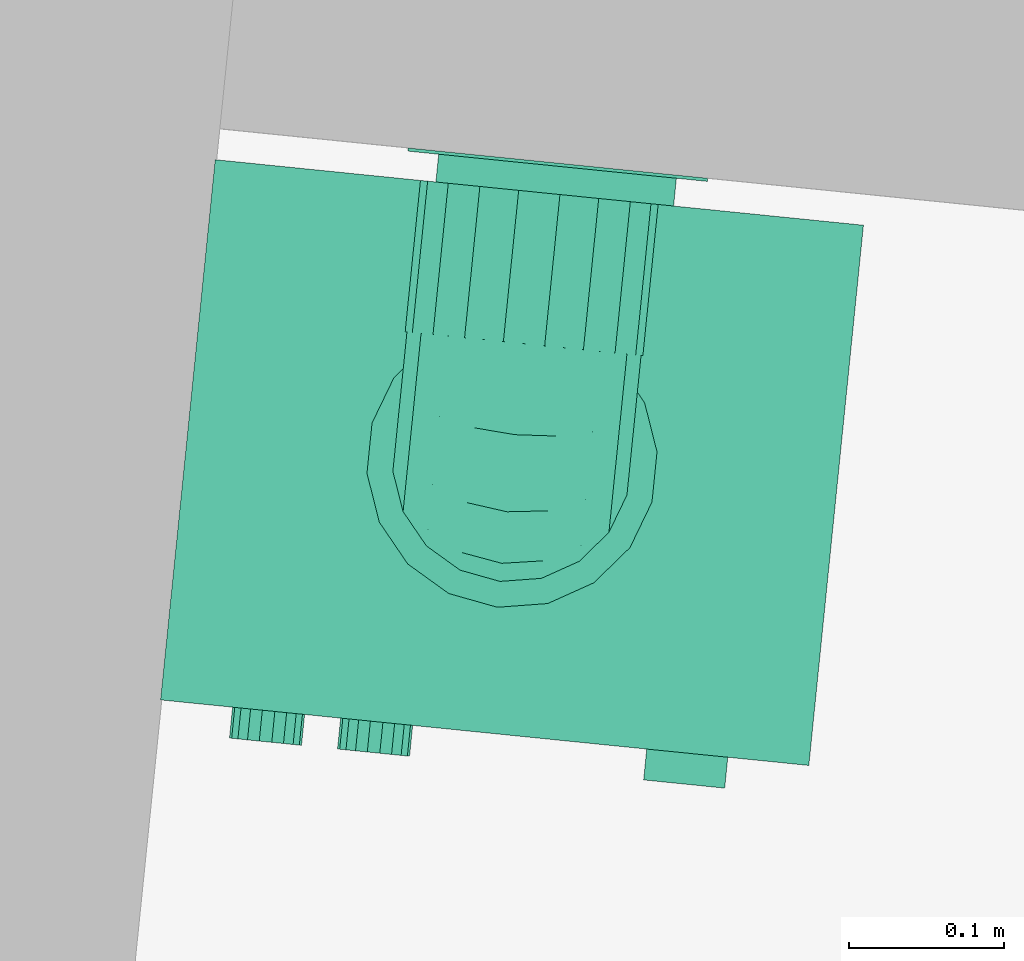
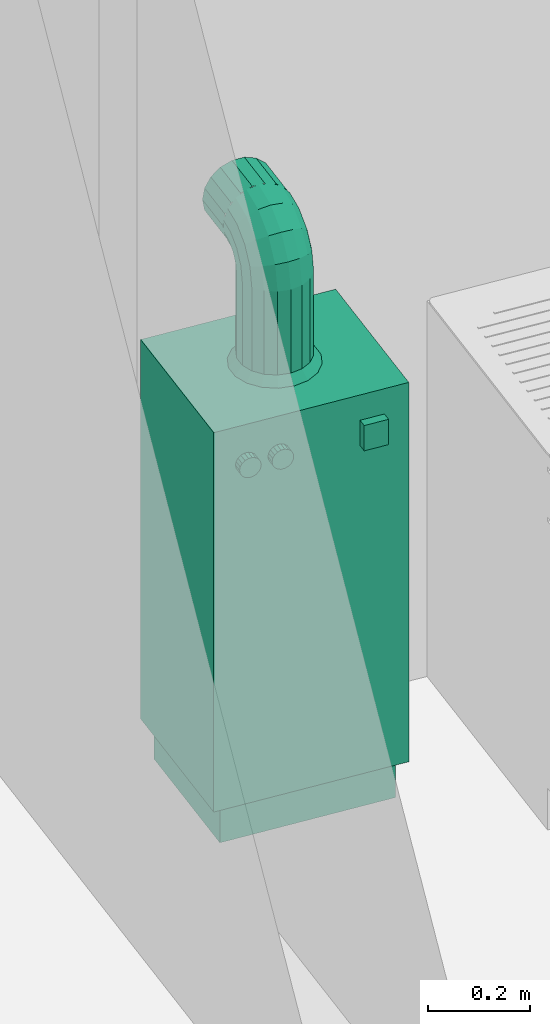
# One storey, part 112 of 164: 1 distribution element.
"""IFC2X3 building model written with IfcOpenShell, lengths in millimetres."""

from ifc_helpers import new_model, entity, si_unit, converted_unit, derived_unit, money_unit, direction, frame, origin_with_axes, place, context, subcontext, project, spatial, open_shell, faceted_brep, surface_model, source, transform, mapped, type_object, element, save


model = new_model("IFC2X3")

# Units and contexts
model_context = context("Model", 3, precision=0.01, world=origin_with_axes(), true_north=direction((0.0, 1.0)))
body_context = subcontext(model_context, "Body", "Model", "MODEL_VIEW")
ifc_project = project(units=[si_unit("LENGTHUNIT", "METRE", prefix="MILLI"), si_unit("AREAUNIT", "SQUARE_METRE"), si_unit("VOLUMEUNIT", "CUBIC_METRE"), converted_unit("PLANEANGLEUNIT", "DEGREE", entity("IfcPlaneAngleMeasure", 0.0174532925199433), si_unit("PLANEANGLEUNIT", "RADIAN"), dimensions=[0, 0, 0, 0, 0, 0, 0]), money_unit("USD"), converted_unit("TIMEUNIT", "Year", entity("IfcTimeMeasure", 31557600.0), si_unit("TIMEUNIT", "SECOND"), dimensions=[0, 0, 1, 0, 0, 0, 0]), si_unit("MASSUNIT", "GRAM", prefix="KILO"), si_unit("THERMODYNAMICTEMPERATUREUNIT", "DEGREE_CELSIUS"), si_unit("LUMINOUSINTENSITYUNIT", "LUMEN"), si_unit("ENERGYUNIT", "JOULE", prefix="MEGA"), derived_unit("THERMALCONDUCTANCEUNIT", [(si_unit("POWERUNIT", "WATT"), 1), (si_unit("LENGTHUNIT", "METRE"), -1), (si_unit("THERMODYNAMICTEMPERATUREUNIT", "KELVIN"), -1)]), derived_unit("SPECIFICHEATCAPACITYUNIT", [(si_unit("ENERGYUNIT", "JOULE"), 1), (si_unit("MASSUNIT", "GRAM", prefix="KILO"), -1), (si_unit("THERMODYNAMICTEMPERATUREUNIT", "KELVIN"), -1)]), derived_unit("MASSDENSITYUNIT", [(si_unit("MASSUNIT", "GRAM", prefix="KILO"), 1), (si_unit("VOLUMEUNIT", "CUBIC_METRE"), -1)])], contexts=[model_context])

# Site, building, storey
site_placement = place(None, origin_with_axes())
site = spatial("IfcSite", under=ifc_project, at=site_placement, Name="Site", CompositionType="ELEMENT")
building_placement = place(site_placement, origin_with_axes())
building = spatial("IfcBuilding", under=site, at=building_placement, Name="Bâtiment", CompositionType="ELEMENT")
storey_placement = place(building_placement, frame((0.0, 0.0, 5750.0), z_axis=(0.0, 0.0, 1.0), x_axis=(1.0, 0.0, 0.0)))
storey = spatial("IfcBuildingStorey", under=building, at=storey_placement, Name="Etage1", CompositionType="ELEMENT", Elevation=5750.0)

# Distribution element
distribution_element_type = type_object("IfcDistributionElementType", Name="Chaudière à gaz 27")
shared_shape = source(origin_with_axes(), body_context, "Body", "SurfaceModel", [
    surface_model("IfcShellBasedSurfaceModel", [(-200.0, 350.0, 34.90909090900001), (-200.0, 368.0, 34.90909090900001), (-180.0709335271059, 368.0, 37.53280228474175), (-180.0709335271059, 350.0, 37.53280228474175), (-219.9290664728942, 350.0, 37.53280228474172), (-219.9290664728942, 368.0, 37.53280228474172), (-161.5, 368.0, 45.22513481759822), (-161.5, 350.0, 45.22513481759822), (-238.5000000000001, 350.0, 45.22513481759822), (-238.5000000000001, 368.0, 45.22513481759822), (-145.5527778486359, 368.0, 57.46186875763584), (-145.5527778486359, 350.0, 57.46186875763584), (-254.4472221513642, 350.0, 57.46186875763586), (-254.4472221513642, 368.0, 57.46186875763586), (-133.3160439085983, 368.0, 73.409090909), (-133.3160439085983, 350.0, 73.409090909), (-266.6839560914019, 350.0, 73.40909090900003), (-266.6839560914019, 368.0, 73.40909090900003), (-125.6237113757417, 368.0, 91.9800244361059), (-125.6237113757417, 350.0, 91.9800244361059), (-274.3762886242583, 350.0, 91.98002443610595), (-274.3762886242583, 368.0, 91.98002443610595), (-123.0, 368.0, 111.909090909), (-123.0, 350.0, 111.909090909), (-277.0, 350.0, 111.909090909), (-277.0, 368.0, 111.909090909), (-125.6237113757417, 368.0, 131.8381573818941), (-125.6237113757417, 350.0, 131.8381573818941), (-274.3762886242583, 350.0, 131.8381573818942), (-274.3762886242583, 368.0, 131.8381573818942), (-133.3160439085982, 368.0, 150.409090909), (-133.3160439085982, 350.0, 150.409090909), (-266.6839560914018, 350.0, 150.4090909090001), (-266.6839560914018, 368.0, 150.4090909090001), (-145.5527778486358, 368.0, 166.3563130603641), (-145.5527778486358, 350.0, 166.3563130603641), (-254.4472221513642, 350.0, 166.3563130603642), (-254.4472221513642, 368.0, 166.3563130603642), (-161.5, 368.0, 178.5930470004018), (-161.5, 350.0, 178.5930470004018), (-238.5, 350.0, 178.5930470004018), (-238.5, 368.0, 178.5930470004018), (-180.0709335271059, 368.0, 186.2853795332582), (-180.0709335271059, 350.0, 186.2853795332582), (-219.929066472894, 350.0, 186.2853795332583), (-219.929066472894, 368.0, 186.2853795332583), (-200.0, 368.0, 188.909090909), (-200.0, 350.0, 188.909090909)], [open_shell([[[0, 1, 2, 3]], [[4, 5, 1, 0]], [[3, 2, 6, 7]], [[8, 9, 5, 4]], [[7, 6, 10, 11]], [[12, 13, 9, 8]], [[11, 10, 14, 15]], [[16, 17, 13, 12]], [[15, 14, 18, 19]], [[20, 21, 17, 16]], [[19, 18, 22, 23]], [[24, 25, 21, 20]], [[23, 22, 26, 27]], [[28, 29, 25, 24]], [[27, 26, 30, 31]], [[32, 33, 29, 28]], [[31, 30, 34, 35]], [[36, 37, 33, 32]], [[35, 34, 38, 39]], [[40, 41, 37, 36]], [[39, 38, 42, 43]], [[44, 45, 41, 40]], [[43, 42, 46, 47]], [[47, 46, 45, 44]]])]),
    faceted_brep([(-200.0, 368.0, 14.909090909), (-200.0, 370.0, 14.909090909), (-174.8945526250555, 370.0, 18.21428575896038), (-174.8945526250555, 368.0, 18.21428575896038), (-225.1054473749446, 368.0, 18.21428575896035), (-225.1054473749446, 370.0, 18.21428575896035), (-248.5000000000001, 370.0, 27.90462674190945), (-268.5893577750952, 370.0, 43.31973313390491), (-284.0044641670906, 370.0, 63.40909090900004), (-293.6948051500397, 370.0, 86.80364353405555), (-297.0000000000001, 370.0, 111.909090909), (-293.6948051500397, 370.0, 137.0145382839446), (-284.0044641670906, 370.0, 160.4090909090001), (-268.5893577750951, 370.0, 180.4984486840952), (-248.5, 370.0, 195.9135550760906), (-225.1054473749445, 370.0, 205.6038960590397), (-199.9999999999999, 370.0, 208.909090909), (-174.8945526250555, 370.0, 205.6038960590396), (-151.5, 370.0, 195.9135550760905), (-131.4106422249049, 370.0, 180.4984486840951), (-115.9955358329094, 370.0, 160.409090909), (-106.3051948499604, 370.0, 137.0145382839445), (-103.0, 370.0, 111.909090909), (-106.3051948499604, 370.0, 86.80364353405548), (-115.9955358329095, 370.0, 63.40909090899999), (-131.4106422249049, 370.0, 43.31973313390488), (-151.5, 370.0, 27.90462674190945), (-200.0, 370.0, 34.90909090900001), (-180.0709335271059, 370.0, 37.53280228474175), (-161.5, 370.0, 45.22513481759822), (-145.5527778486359, 370.0, 57.46186875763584), (-133.3160439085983, 370.0, 73.409090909), (-125.6237113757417, 370.0, 91.9800244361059), (-123.0, 370.0, 111.909090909), (-125.6237113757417, 370.0, 131.8381573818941), (-133.3160439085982, 370.0, 150.409090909), (-145.5527778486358, 370.0, 166.3563130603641), (-161.5, 370.0, 178.5930470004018), (-180.0709335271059, 370.0, 186.2853795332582), (-200.0, 370.0, 188.909090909), (-219.929066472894, 370.0, 186.2853795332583), (-238.5, 370.0, 178.5930470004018), (-254.4472221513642, 370.0, 166.3563130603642), (-266.6839560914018, 370.0, 150.4090909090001), (-274.3762886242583, 370.0, 131.8381573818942), (-277.0, 370.0, 111.909090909), (-274.3762886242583, 370.0, 91.98002443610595), (-266.6839560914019, 370.0, 73.40909090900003), (-254.4472221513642, 370.0, 57.46186875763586), (-238.5000000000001, 370.0, 45.22513481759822), (-219.9290664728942, 370.0, 37.53280228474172), (-151.5, 368.0, 27.90462674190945), (-131.4106422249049, 368.0, 43.31973313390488), (-115.9955358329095, 368.0, 63.40909090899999), (-106.3051948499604, 368.0, 86.80364353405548), (-103.0, 368.0, 111.909090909), (-106.3051948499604, 368.0, 137.0145382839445), (-115.9955358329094, 368.0, 160.409090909), (-131.4106422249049, 368.0, 180.4984486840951), (-151.5, 368.0, 195.9135550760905), (-174.8945526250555, 368.0, 205.6038960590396), (-199.9999999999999, 368.0, 208.909090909), (-225.1054473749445, 368.0, 205.6038960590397), (-248.5, 368.0, 195.9135550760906), (-268.5893577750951, 368.0, 180.4984486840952), (-284.0044641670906, 368.0, 160.4090909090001), (-293.6948051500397, 368.0, 137.0145382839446), (-297.0000000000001, 368.0, 111.909090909), (-293.6948051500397, 368.0, 86.80364353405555), (-284.0044641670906, 368.0, 63.40909090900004), (-268.5893577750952, 368.0, 43.31973313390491), (-248.5000000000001, 368.0, 27.90462674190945), (-200.0, 368.0, 34.90909090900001), (-219.9290664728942, 368.0, 37.53280228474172), (-238.5000000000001, 368.0, 45.22513481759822), (-254.4472221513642, 368.0, 57.46186875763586), (-266.6839560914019, 368.0, 73.40909090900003), (-274.3762886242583, 368.0, 91.98002443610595), (-277.0, 368.0, 111.909090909), (-274.3762886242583, 368.0, 131.8381573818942), (-266.6839560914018, 368.0, 150.4090909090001), (-254.4472221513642, 368.0, 166.3563130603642), (-238.5, 368.0, 178.5930470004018), (-219.929066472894, 368.0, 186.2853795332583), (-200.0, 368.0, 188.909090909), (-180.0709335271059, 368.0, 186.2853795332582), (-161.5, 368.0, 178.5930470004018), (-145.5527778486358, 368.0, 166.3563130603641), (-133.3160439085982, 368.0, 150.409090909), (-125.6237113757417, 368.0, 131.8381573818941), (-123.0, 368.0, 111.909090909), (-125.6237113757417, 368.0, 91.9800244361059), (-133.3160439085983, 368.0, 73.409090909), (-145.5527778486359, 368.0, 57.46186875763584), (-161.5, 368.0, 45.22513481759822), (-180.0709335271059, 368.0, 37.53280228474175)], [[[0, 1, 2, 3]], [[4, 5, 1, 0]], [[1, 5, 6, 7, 8, 9, 10, 11, 12, 13, 14, 15, 16, 17, 18, 19, 20, 21, 22, 23, 24, 25, 26, 2], [27, 28, 29, 30, 31, 32, 33, 34, 35, 36, 37, 38, 39, 40, 41, 42, 43, 44, 45, 46, 47, 48, 49, 50]], [[3, 2, 26, 51]], [[0, 3, 51, 52, 53, 54, 55, 56, 57, 58, 59, 60, 61, 62, 63, 64, 65, 66, 67, 68, 69, 70, 71, 4], [72, 73, 74, 75, 76, 77, 78, 79, 80, 81, 82, 83, 84, 85, 86, 87, 88, 89, 90, 91, 92, 93, 94, 95]], [[71, 6, 5, 4]], [[70, 7, 6, 71]], [[69, 8, 7, 70]], [[68, 9, 8, 69]], [[67, 10, 9, 68]], [[66, 11, 10, 67]], [[65, 12, 11, 66]], [[64, 13, 12, 65]], [[63, 14, 13, 64]], [[62, 15, 14, 63]], [[61, 16, 15, 62]], [[60, 17, 16, 61]], [[59, 18, 17, 60]], [[58, 19, 18, 59]], [[57, 20, 19, 58]], [[56, 21, 20, 57]], [[55, 22, 21, 56]], [[54, 23, 22, 55]], [[53, 24, 23, 54]], [[52, 25, 24, 53]], [[51, 26, 25, 52]], [[95, 28, 27, 72]], [[94, 29, 28, 95]], [[93, 30, 29, 94]], [[92, 31, 30, 93]], [[91, 32, 31, 92]], [[90, 33, 32, 91]], [[89, 34, 33, 90]], [[88, 35, 34, 89]], [[87, 36, 35, 88]], [[86, 37, 36, 87]], [[85, 38, 37, 86]], [[84, 39, 38, 85]], [[83, 40, 39, 84]], [[82, 41, 40, 83]], [[81, 42, 41, 82]], [[80, 43, 42, 81]], [[79, 44, 43, 80]], [[78, 45, 44, 79]], [[77, 46, 45, 78]], [[76, 47, 46, 77]], [[75, 48, 47, 76]], [[74, 49, 48, 75]], [[73, 50, 49, 74]], [[72, 27, 50, 73]]]),
    faceted_brep([(-399.0, 17.5, 0.0), (-399.0, 332.5, 0.0), (-21.0, 332.5, 0.0), (-21.0, 17.5, 0.0), (-399.0, 17.5, 90.9090909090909), (-399.0, 332.5, 90.9090909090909), (-21.0, 332.5, 90.9090909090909), (-21.0, 17.5, 90.9090909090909)], [[[0, 1, 2, 3]], [[0, 4, 5, 1]], [[1, 5, 6, 2]], [[2, 6, 7, 3]], [[3, 7, 4, 0]], [[7, 6, 5, 4]]]),
    faceted_brep([(0.0, 350.0, 90.9090909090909), (-420.0, 350.0, 90.90909090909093), (-419.9999999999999, 350.0, 1000.0), (0.0, 350.0, 1000.0), (0.0, 0.0, 90.9090909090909), (-420.0, 0.0, 90.90909090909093), (-419.9999999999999, 0.0, 818.1818181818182), (-419.9999999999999, 17.5, 818.1818181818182), (-419.9999999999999, 17.5, 1000.0), (0.0, 17.5, 1000.0), (0.0, 17.5, 818.1818181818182), (0.0, 0.0, 818.1818181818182)], [[[0, 1, 2, 3]], [[4, 5, 1, 0]], [[1, 5, 6, 7, 8, 2]], [[3, 2, 8, 9]], [[0, 3, 9, 10, 11, 4]], [[11, 6, 5, 4]], [[10, 7, 6, 11]], [[9, 8, 7, 10]]]),
    faceted_brep([(-420.0, 0.0, 818.1818181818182), (-420.0, 17.5, 818.1818181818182), (0.0, 17.5, 818.1818181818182), (0.0, 0.0, 818.1818181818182), (-420.0, 0.0, 1000.0), (-420.0, 17.5, 1000.0), (0.0, 17.5, 1000.0), (0.0, 0.0, 1000.0)], [[[0, 1, 2, 3]], [[0, 4, 5, 1]], [[1, 5, 6, 2]], [[2, 6, 7, 3]], [[3, 7, 4, 0]], [[7, 6, 5, 4]]]),
    faceted_brep([(-301.9261611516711, 0.0, 901.1104390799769), (-303.3333333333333, 0.0, 909.0909090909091), (-301.9261611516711, 0.0, 917.0713791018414), (-297.8743703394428, 0.0, 924.0892866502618), (-291.6666666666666, 0.0, 929.2981685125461), (-284.0517908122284, 0.0, 932.0697566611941), (-275.9482091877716, 0.0, 932.0697566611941), (-268.3333333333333, 0.0, 929.2981685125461), (-262.1256296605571, 0.0, 924.0892866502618), (-258.0738388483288, 0.0, 917.0713791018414), (-256.6666666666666, 0.0, 909.0909090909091), (-258.0738388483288, 0.0, 901.1104390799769), (-262.1256296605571, 0.0, 894.0925315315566), (-268.3333333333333, 0.0, 888.8836496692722), (-275.9482091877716, 0.0, 886.1120615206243), (-284.0517908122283, 0.0, 886.1120615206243), (-291.6666666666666, 0.0, 888.8836496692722), (-297.8743703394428, 0.0, 894.0925315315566), (-301.9261611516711, -19.99999999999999, 901.1104390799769), (-303.3333333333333, -19.99999999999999, 909.0909090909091), (-301.9261611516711, -19.99999999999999, 917.0713791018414), (-297.8743703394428, -19.99999999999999, 924.0892866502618), (-291.6666666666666, -19.99999999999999, 929.2981685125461), (-284.0517908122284, -19.99999999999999, 932.0697566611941), (-275.9482091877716, -19.99999999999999, 932.0697566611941), (-268.3333333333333, -19.99999999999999, 929.2981685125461), (-262.1256296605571, -19.99999999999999, 924.0892866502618), (-258.0738388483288, -19.99999999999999, 917.0713791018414), (-256.6666666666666, -19.99999999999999, 909.0909090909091), (-258.0738388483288, -19.99999999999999, 901.1104390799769), (-262.1256296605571, -19.99999999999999, 894.0925315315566), (-268.3333333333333, -19.99999999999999, 888.8836496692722), (-275.9482091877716, -19.99999999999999, 886.1120615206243), (-284.0517908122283, -19.99999999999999, 886.1120615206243), (-291.6666666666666, -19.99999999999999, 888.8836496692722), (-297.8743703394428, -19.99999999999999, 894.0925315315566)], [[[0, 1, 2, 3, 4, 5, 6, 7, 8, 9, 10, 11, 12, 13, 14, 15, 16, 17]], [[0, 18, 19, 1]], [[1, 19, 20, 2]], [[2, 20, 21, 3]], [[3, 21, 22, 4]], [[4, 22, 23, 5]], [[5, 23, 24, 6]], [[6, 24, 25, 7]], [[7, 25, 26, 8]], [[8, 26, 27, 9]], [[9, 27, 28, 10]], [[10, 28, 29, 11]], [[11, 29, 30, 12]], [[12, 30, 31, 13]], [[13, 31, 32, 14]], [[14, 32, 33, 15]], [[15, 33, 34, 16]], [[16, 34, 35, 17]], [[17, 35, 18, 0]], [[18, 35, 34, 33, 32, 31, 30, 29, 28, 27, 26, 25, 24, 23, 22, 21, 20, 19]]]),
    faceted_brep([(-371.9261611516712, 0.0, 901.1104390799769), (-373.3333333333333, 0.0, 909.0909090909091), (-371.9261611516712, 0.0, 917.0713791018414), (-367.8743703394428, 0.0, 924.0892866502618), (-361.6666666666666, 0.0, 929.2981685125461), (-354.0517908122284, 0.0, 932.0697566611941), (-345.9482091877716, 0.0, 932.0697566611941), (-338.3333333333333, 0.0, 929.2981685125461), (-332.1256296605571, 0.0, 924.0892866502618), (-328.0738388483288, 0.0, 917.0713791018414), (-326.6666666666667, 0.0, 909.0909090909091), (-328.0738388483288, 0.0, 901.1104390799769), (-332.1256296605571, 0.0, 894.0925315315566), (-338.3333333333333, 0.0, 888.8836496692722), (-345.9482091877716, 0.0, 886.1120615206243), (-354.0517908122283, 0.0, 886.1120615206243), (-361.6666666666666, 0.0, 888.8836496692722), (-367.8743703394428, 0.0, 894.0925315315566), (-371.9261611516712, -19.99999999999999, 901.1104390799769), (-373.3333333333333, -19.99999999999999, 909.0909090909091), (-371.9261611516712, -19.99999999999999, 917.0713791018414), (-367.8743703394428, -19.99999999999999, 924.0892866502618), (-361.6666666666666, -19.99999999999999, 929.2981685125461), (-354.0517908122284, -19.99999999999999, 932.0697566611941), (-345.9482091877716, -19.99999999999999, 932.0697566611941), (-338.3333333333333, -19.99999999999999, 929.2981685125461), (-332.1256296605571, -19.99999999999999, 924.0892866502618), (-328.0738388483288, -19.99999999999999, 917.0713791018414), (-326.6666666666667, -19.99999999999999, 909.0909090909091), (-328.0738388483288, -19.99999999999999, 901.1104390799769), (-332.1256296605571, -19.99999999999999, 894.0925315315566), (-338.3333333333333, -19.99999999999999, 888.8836496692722), (-345.9482091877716, -19.99999999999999, 886.1120615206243), (-354.0517908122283, -19.99999999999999, 886.1120615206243), (-361.6666666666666, -19.99999999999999, 888.8836496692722), (-367.8743703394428, -19.99999999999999, 894.0925315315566)], [[[0, 1, 2, 3, 4, 5, 6, 7, 8, 9, 10, 11, 12, 13, 14, 15, 16, 17]], [[0, 18, 19, 1]], [[1, 19, 20, 2]], [[2, 20, 21, 3]], [[3, 21, 22, 4]], [[4, 22, 23, 5]], [[5, 23, 24, 6]], [[6, 24, 25, 7]], [[7, 25, 26, 8]], [[8, 26, 27, 9]], [[9, 27, 28, 10]], [[10, 28, 29, 11]], [[11, 29, 30, 12]], [[12, 30, 31, 13]], [[13, 31, 32, 14]], [[14, 32, 33, 15]], [[15, 33, 34, 16]], [[16, 34, 35, 17]], [[17, 35, 18, 0]], [[18, 35, 34, 33, 32, 31, 30, 29, 28, 27, 26, 25, 24, 23, 22, 21, 20, 19]]]),
    faceted_brep([(-105.0, 0.0, 878.7878787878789), (-105.0, 0.0, 939.3939393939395), (-52.5, 0.0, 939.3939393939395), (-52.5, 0.0, 878.7878787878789), (-105.0, -20.0, 878.7878787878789), (-105.0, -19.99999999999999, 939.3939393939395), (-52.5, -19.99999999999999, 939.3939393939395), (-52.5, -20.0, 878.7878787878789)], [[[0, 1, 2, 3]], [[0, 4, 5, 1]], [[1, 5, 6, 2]], [[2, 6, 7, 3]], [[3, 7, 4, 0]], [[7, 6, 5, 4]]]),
    surface_model("IfcShellBasedSurfaceModel", [(-183.6644489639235, 247.3563318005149, 1220.0), (-183.6644489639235, 247.3563318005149, 1020.0), (-210.0, 252.0, 1020.0), (-210.0, 252.0, 1220.0), (-160.5053540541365, 233.9854221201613, 1220.0), (-160.5053540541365, 233.9854221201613, 1020.0), (-177.9356115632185, 263.0961831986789, 1000.0), (-210.0, 268.75, 1000.0), (-236.3355510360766, 247.356331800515, 1020.0), (-236.3355510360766, 247.356331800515, 1220.0), (-143.3160439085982, 213.5, 1220.0), (-143.3160439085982, 213.5, 1020.0), (-149.7386615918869, 246.8166665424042, 1000.0), (-242.0643884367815, 263.0961831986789, 1000.0), (-259.4946459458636, 233.9854221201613, 1020.0), (-259.4946459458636, 233.9854221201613, 1220.0), (-134.16980301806, 188.3709096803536, 1220.0), (-134.16980301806, 188.3709096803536, 1020.0), (-128.8101183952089, 221.875, 1000.0), (-270.2613384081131, 246.8166665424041, 1000.0), (-276.6839560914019, 213.5, 1020.0), (-276.6839560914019, 213.5, 1220.0), (-134.16980301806, 161.6290903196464, 1220.0), (-134.16980301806, 161.6290903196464, 1020.0), (-117.6742731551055, 191.2795166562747, 1000.0), (-291.1898816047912, 221.8749999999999, 1000.0), (-285.83019698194, 188.3709096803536, 1020.0), (-285.83019698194, 188.3709096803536, 1220.0), (-143.3160439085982, 136.5, 1220.0), (-143.3160439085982, 136.5, 1020.0), (-117.6742731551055, 158.7204833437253, 1000.0), (-302.3257268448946, 191.2795166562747, 1000.0), (-285.83019698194, 161.6290903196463, 1020.0), (-285.83019698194, 161.6290903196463, 1220.0), (-160.5053540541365, 116.0145778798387, 1220.0), (-160.5053540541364, 116.0145778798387, 1020.0), (-128.8101183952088, 128.125, 1000.0), (-302.3257268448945, 158.7204833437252, 1000.0), (-276.6839560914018, 136.4999999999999, 1020.0), (-276.6839560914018, 136.4999999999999, 1220.0), (-183.6644489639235, 102.643668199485, 1220.0), (-183.6644489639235, 102.643668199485, 1020.0), (-149.7386615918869, 103.1833334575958, 1000.0), (-291.1898816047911, 128.1249999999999, 1000.0), (-259.4946459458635, 116.0145778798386, 1020.0), (-259.4946459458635, 116.0145778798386, 1220.0), (-210.0, 97.99999999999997, 1220.0), (-210.0, 97.99999999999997, 1020.0), (-177.9356115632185, 86.90381680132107, 1000.0), (-270.261338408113, 103.1833334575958, 1000.0), (-236.3355510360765, 102.643668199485, 1020.0), (-236.3355510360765, 102.643668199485, 1220.0), (-210.0, 81.24999999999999, 1000.0), (-242.0643884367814, 86.90381680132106, 1000.0)], [open_shell([[[0, 1, 2, 3]], [[4, 5, 1, 0]], [[1, 6, 7, 2]], [[3, 2, 8, 9]], [[10, 11, 5, 4]], [[5, 12, 6, 1]], [[2, 7, 13, 8]], [[9, 8, 14, 15]], [[16, 17, 11, 10]], [[11, 18, 12, 5]], [[8, 13, 19, 14]], [[15, 14, 20, 21]], [[22, 23, 17, 16]], [[17, 24, 18, 11]], [[14, 19, 25, 20]], [[21, 20, 26, 27]], [[28, 29, 23, 22]], [[23, 30, 24, 17]], [[20, 25, 31, 26]], [[27, 26, 32, 33]], [[34, 35, 29, 28]], [[29, 36, 30, 23]], [[26, 31, 37, 32]], [[33, 32, 38, 39]], [[40, 41, 35, 34]], [[35, 42, 36, 29]], [[32, 37, 43, 38]], [[39, 38, 44, 45]], [[46, 47, 41, 40]], [[41, 48, 42, 35]], [[38, 43, 49, 44]], [[45, 44, 50, 51]], [[51, 50, 47, 46]], [[47, 52, 48, 41]], [[44, 49, 53, 50]], [[50, 53, 52, 47]]])]),
    faceted_brep([(-285.83019698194, 161.6290903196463, 1220.0), (-285.83019698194, 168.5081662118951, 1254.583449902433), (-285.83019698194, 193.2143857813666, 1244.349798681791), (-285.83019698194, 188.3709096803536, 1220.0), (-276.6839560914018, 136.4999999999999, 1220.0), (-276.6839560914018, 145.2919139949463, 1264.199936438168), (-285.83019698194, 188.0981169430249, 1283.901883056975), (-285.83019698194, 207.0074387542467, 1264.992561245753), (-276.6839560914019, 213.4999999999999, 1220.0), (-276.6839560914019, 216.4306379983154, 1234.733312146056), (-259.4946459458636, 233.9854221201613, 1220.0), (-236.3355510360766, 247.356331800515, 1220.0), (-210.0, 252.0, 1220.0), (-183.6644489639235, 247.3563318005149, 1220.0), (-160.5053540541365, 233.9854221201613, 1220.0), (-143.3160439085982, 213.5, 1220.0), (-134.16980301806, 188.3709096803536, 1220.0), (-134.16980301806, 161.6290903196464, 1220.0), (-143.3160439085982, 136.5, 1220.0), (-160.5053540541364, 116.0145778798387, 1220.0), (-183.6644489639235, 102.643668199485, 1220.0), (-210.0, 97.99999999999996, 1220.0), (-236.3355510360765, 102.643668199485, 1220.0), (-259.4946459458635, 116.0145778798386, 1220.0), (-259.4946459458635, 126.3658517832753, 1272.039368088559), (-276.6839560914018, 170.3291667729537, 1301.670833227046), (-285.83019698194, 217.4165500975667, 1303.491833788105), (-285.83019698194, 227.6502013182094, 1278.785614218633), (-276.6839560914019, 224.7763889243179, 1247.223611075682), (-259.4946459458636, 235.3567002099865, 1226.893880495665), (-236.3355510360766, 247.7098099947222, 1221.777054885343), (-183.6644489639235, 247.7098099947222, 1221.777054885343), (-160.5053540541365, 235.3567002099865, 1226.893880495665), (-143.3160439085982, 216.4306379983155, 1234.733312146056), (-134.16980301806, 193.2143857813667, 1244.349798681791), (-134.16980301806, 168.5081662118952, 1254.583449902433), (-143.3160439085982, 145.2919139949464, 1264.199936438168), (-160.5053540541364, 126.3658517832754, 1272.039368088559), (-183.6644489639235, 114.0127419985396, 1277.15619369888), (-210.0, 109.7225519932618, 1278.933248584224), (-236.3355510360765, 114.0127419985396, 1277.15619369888), (-259.4946459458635, 155.8437858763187, 1316.156214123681), (-276.6839560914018, 207.8000635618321, 1326.708086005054), (-285.83019698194, 252.0, 1310.370909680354), (-285.83019698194, 252.0, 1283.629090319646), (-276.6839560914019, 237.266687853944, 1255.569362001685), (-259.4946459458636, 239.2617698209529, 1232.738230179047), (-236.3355510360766, 248.7164307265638, 1223.283569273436), (-183.6644489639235, 248.7164307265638, 1223.283569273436), (-160.5053540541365, 239.2617698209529, 1232.738230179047), (-143.3160439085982, 224.7763889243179, 1247.223611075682), (-134.16980301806, 207.0074387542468, 1264.992561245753), (-134.16980301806, 188.0981169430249, 1283.901883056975), (-143.3160439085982, 170.3291667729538, 1301.670833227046), (-160.5053540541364, 155.8437858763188, 1316.156214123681), (-183.6644489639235, 146.3891249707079, 1325.610875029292), (-210.0, 143.1055556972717, 1328.894444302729), (-236.3355510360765, 146.3891249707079, 1325.610875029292), (-259.4946459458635, 199.9606319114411, 1345.634148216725), (-276.6839560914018, 252.0, 1335.5), (-276.6839560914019, 252.0, 1258.5), (-259.4946459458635, 252.0, 1355.985422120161), (-236.3355510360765, 252.0, 1369.356331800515), (-210.0, 252.0, 1374.0), (-183.6644489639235, 252.0, 1369.356331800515), (-160.5053540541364, 252.0, 1355.985422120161), (-143.3160439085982, 252.0, 1335.5), (-134.16980301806, 252.0, 1310.370909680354), (-134.16980301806, 252.0, 1283.629090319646), (-143.3160439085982, 252.0, 1258.5), (-160.5053540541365, 252.0, 1238.014577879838), (-183.6644489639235, 252.0, 1224.643668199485), (-236.3355510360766, 252.0, 1224.643668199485), (-259.4946459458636, 252.0, 1238.014577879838), (-259.4946459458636, 245.1061195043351, 1236.643299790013), (-236.3355510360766, 250.2229451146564, 1224.290190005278), (-183.6644489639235, 250.2229451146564, 1224.290190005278), (-160.5053540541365, 245.1061195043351, 1236.643299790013), (-143.3160439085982, 237.2666878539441, 1255.569362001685), (-134.16980301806, 227.6502013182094, 1278.785614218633), (-134.16980301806, 217.4165500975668, 1303.491833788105), (-143.3160439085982, 207.8000635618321, 1326.708086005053), (-160.5053540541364, 199.9606319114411, 1345.634148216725), (-183.6644489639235, 194.8438063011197, 1357.98725800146), (-210.0, 193.0667514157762, 1362.277448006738), (-236.3355510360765, 194.8438063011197, 1357.98725800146)], [[[0, 1, 2, 3]], [[1, 0, 4, 5]], [[1, 6, 7, 2]], [[8, 3, 2, 9]], [[4, 0, 3, 8, 10, 11, 12, 13, 14, 15, 16, 17, 18, 19, 20, 21, 22, 23]], [[5, 4, 23, 24]], [[6, 1, 5, 25]], [[7, 6, 26, 27]], [[2, 7, 28, 9]], [[29, 10, 8, 9]], [[10, 29, 30, 11]], [[11, 30, 12]], [[31, 13, 12]], [[13, 31, 32, 14]], [[33, 15, 14, 32]], [[15, 33, 34, 16]], [[35, 17, 16, 34]], [[18, 17, 35, 36]], [[37, 19, 18, 36]], [[20, 19, 37, 38]], [[39, 21, 20, 38]], [[22, 21, 39, 40]], [[24, 23, 22, 40]], [[25, 5, 24, 41]], [[6, 25, 42, 26]], [[27, 26, 43, 44]], [[45, 28, 7, 27]], [[46, 29, 9, 28]], [[29, 46, 47, 30]], [[30, 47, 12]], [[48, 31, 12]], [[31, 48, 49, 32]], [[32, 49, 50, 33]], [[34, 33, 50, 51]], [[52, 35, 34, 51]], [[35, 52, 53, 36]], [[54, 37, 36, 53]], [[38, 37, 54, 55]], [[56, 39, 38, 55]], [[57, 40, 39, 56]], [[41, 24, 40, 57]], [[42, 25, 41, 58]], [[26, 42, 59, 43]], [[60, 44, 43, 59, 61, 62, 63, 64, 65, 66, 67, 68, 69, 70, 71, 12, 72, 73]], [[45, 27, 44, 60]], [[28, 45, 74, 46]], [[46, 74, 75, 47]], [[47, 75, 12]], [[76, 48, 12]], [[48, 76, 77, 49]], [[49, 77, 78, 50]], [[50, 78, 79, 51]], [[52, 51, 79, 80]], [[53, 52, 80, 81]], [[82, 54, 53, 81]], [[55, 54, 82, 83]], [[56, 55, 83, 84]], [[85, 57, 56, 84]], [[58, 41, 57, 85]], [[59, 42, 58, 61]], [[61, 58, 85, 62]], [[62, 85, 84, 63]], [[84, 83, 64, 63]], [[82, 65, 64, 83]], [[65, 82, 81, 66]], [[81, 80, 67, 66]], [[80, 79, 68, 67]], [[79, 78, 69, 68]], [[77, 70, 69, 78]], [[77, 76, 71, 70]], [[76, 12, 71]], [[75, 72, 12]], [[74, 73, 72, 75]], [[45, 60, 73, 74]]]),
    surface_model("IfcShellBasedSurfaceModel", [(-137.643668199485, 350.0, 1323.335551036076), (-137.643668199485, 252.0, 1323.335551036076), (-133.0, 252.0, 1297.0), (-133.0, 350.0, 1297.0), (-151.0145778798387, 350.0, 1346.494645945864), (-151.0145778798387, 252.0, 1346.494645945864), (-137.643668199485, 252.0, 1270.664448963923), (-137.643668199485, 350.0, 1270.664448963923), (-171.5, 350.0, 1363.683956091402), (-171.5, 252.0, 1363.683956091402), (-151.0145778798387, 252.0, 1247.505354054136), (-151.0145778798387, 350.0, 1247.505354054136), (-196.6290903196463, 350.0, 1372.83019698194), (-196.6290903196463, 252.0, 1372.83019698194), (-171.5, 252.0, 1230.316043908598), (-171.5, 350.0, 1230.316043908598), (-223.3709096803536, 350.0, 1372.83019698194), (-223.3709096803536, 252.0, 1372.83019698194), (-196.6290903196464, 252.0, 1221.16980301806), (-196.6290903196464, 350.0, 1221.16980301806), (-248.5, 350.0, 1363.683956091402), (-248.5, 252.0, 1363.683956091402), (-223.3709096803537, 252.0, 1221.16980301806), (-223.3709096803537, 350.0, 1221.16980301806), (-268.9854221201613, 350.0, 1346.494645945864), (-268.9854221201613, 252.0, 1346.494645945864), (-248.5000000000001, 252.0, 1230.316043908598), (-248.5000000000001, 350.0, 1230.316043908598), (-282.356331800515, 350.0, 1323.335551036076), (-282.356331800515, 252.0, 1323.335551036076), (-268.9854221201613, 252.0, 1247.505354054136), (-268.9854221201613, 350.0, 1247.505354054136), (-287.0000000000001, 350.0, 1297.0), (-287.0000000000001, 252.0, 1297.0), (-282.356331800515, 252.0, 1270.664448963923), (-282.356331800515, 350.0, 1270.664448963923)], [open_shell([[[0, 1, 2, 3]], [[4, 5, 1, 0]], [[3, 2, 6, 7]], [[8, 9, 5, 4]], [[7, 6, 10, 11]], [[12, 13, 9, 8]], [[11, 10, 14, 15]], [[16, 17, 13, 12]], [[15, 14, 18, 19]], [[20, 21, 17, 16]], [[19, 18, 22, 23]], [[24, 25, 21, 20]], [[23, 22, 26, 27]], [[28, 29, 25, 24]], [[27, 26, 30, 31]], [[32, 33, 29, 28]], [[31, 30, 34, 35]], [[35, 34, 33, 32]]])]),
])
distribution_element_placement = place(storey_placement, frame((2229345.301418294, -615219.2518027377, 0.0), z_axis=(0.0, 0.0, 1.0), x_axis=(0.9949300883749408, -0.1005689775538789, 0.0)))
element("IfcDistributionElement", 1, at=distribution_element_placement, inside=storey, type_object=distribution_element_type, Name="Obj.-003", context=body_context, shape_type="MappedRepresentation", body=[
    mapped(shared_shape, transform((0.0, 0.0, 0.0))),
])

save(model, "model.ifc")
